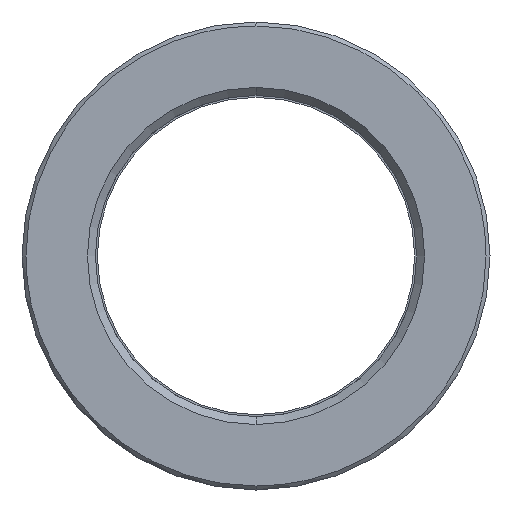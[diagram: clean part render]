
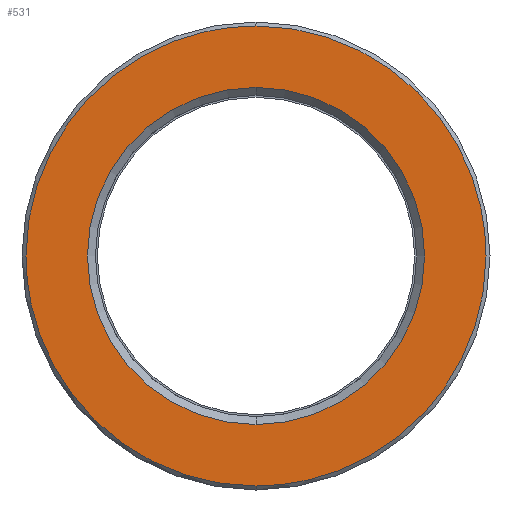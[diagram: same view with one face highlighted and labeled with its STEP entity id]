
A CAD part, left-side view. The second image highlights one B-rep face of the part: STEP entity #531.
In plain terms, the highlighted planar face has unit normal (-1, 0, 0).
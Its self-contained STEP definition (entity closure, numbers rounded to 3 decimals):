
#311=CARTESIAN_POINT('Axis2P3D Location',(0.,0.,0.)) ;
#315=CARTESIAN_POINT('Vertex',(0.,21.25,0.)) ;
#317=CARTESIAN_POINT('Vertex',(0.,0.,21.25)) ;
#320=CARTESIAN_POINT('Axis2P3D Location',(0.,0.,0.)) ;
#324=CARTESIAN_POINT('Vertex',(0.,0.,-21.25)) ;
#351=CARTESIAN_POINT('Axis2P3D Location',(0.,0.,0.)) ;
#355=CARTESIAN_POINT('Vertex',(0.,-21.25,0.)) ;
#358=CARTESIAN_POINT('Axis2P3D Location',(0.,0.,0.)) ;
#438=CARTESIAN_POINT('Axis2P3D Location',(0.,29.,0.)) ;
#444=CARTESIAN_POINT('Control Point',(0.,0.,-29.)) ;
#445=CARTESIAN_POINT('Control Point',(0.,1.442,-29.)) ;
#446=CARTESIAN_POINT('Control Point',(0.,2.884,-28.91)) ;
#447=CARTESIAN_POINT('Control Point',(0.,4.319,-28.731)) ;
#448=CARTESIAN_POINT('Control Point',(0.,8.336,-27.973)) ;
#449=CARTESIAN_POINT('Control Point',(0.,12.177,-26.519)) ;
#450=CARTESIAN_POINT('Control Point',(0.,14.542,-25.299)) ;
#451=CARTESIAN_POINT('Control Point',(0.,18.954,-22.344)) ;
#452=CARTESIAN_POINT('Control Point',(0.,22.589,-18.473)) ;
#453=CARTESIAN_POINT('Control Point',(0.,24.178,-16.338)) ;
#454=CARTESIAN_POINT('Control Point',(0.,26.719,-11.959)) ;
#455=CARTESIAN_POINT('Control Point',(0.,28.26,-7.143)) ;
#456=CARTESIAN_POINT('Control Point',(0.,28.753,-4.784)) ;
#457=CARTESIAN_POINT('Control Point',(0.,29.,-2.392)) ;
#458=CARTESIAN_POINT('Control Point',(0.,29.,0.)) ;
#459=CARTESIAN_POINT('Vertex',(0.,0.,-29.)) ;
#461=CARTESIAN_POINT('Vertex',(0.,29.,0.)) ;
#465=CARTESIAN_POINT('Control Point',(0.,-29.,0.)) ;
#466=CARTESIAN_POINT('Control Point',(0.,-29.,-2.638)) ;
#467=CARTESIAN_POINT('Control Point',(0.,-28.7,-5.276)) ;
#468=CARTESIAN_POINT('Control Point',(0.,-28.1,-7.869)) ;
#469=CARTESIAN_POINT('Control Point',(0.,-26.321,-12.873)) ;
#470=CARTESIAN_POINT('Control Point',(0.,-23.464,-17.349)) ;
#471=CARTESIAN_POINT('Control Point',(0.,-21.786,-19.414)) ;
#472=CARTESIAN_POINT('Control Point',(0.,-17.989,-23.127)) ;
#473=CARTESIAN_POINT('Control Point',(0.,-13.456,-25.893)) ;
#474=CARTESIAN_POINT('Control Point',(0.,-11.041,-27.012)) ;
#475=CARTESIAN_POINT('Control Point',(0.,-7.377,-28.223)) ;
#476=CARTESIAN_POINT('Control Point',(0.,-3.584,-28.815)) ;
#477=CARTESIAN_POINT('Control Point',(0.,-2.392,-28.938)) ;
#478=CARTESIAN_POINT('Control Point',(0.,-1.196,-29.)) ;
#479=CARTESIAN_POINT('Control Point',(0.,0.,-29.)) ;
#480=CARTESIAN_POINT('Vertex',(0.,-29.,0.)) ;
#484=CARTESIAN_POINT('Control Point',(0.,0.,29.)) ;
#485=CARTESIAN_POINT('Control Point',(0.,-1.442,29.)) ;
#486=CARTESIAN_POINT('Control Point',(0.,-2.884,28.91)) ;
#487=CARTESIAN_POINT('Control Point',(0.,-4.319,28.731)) ;
#488=CARTESIAN_POINT('Control Point',(0.,-8.336,27.973)) ;
#489=CARTESIAN_POINT('Control Point',(0.,-12.177,26.519)) ;
#490=CARTESIAN_POINT('Control Point',(0.,-14.542,25.299)) ;
#491=CARTESIAN_POINT('Control Point',(0.,-18.954,22.344)) ;
#492=CARTESIAN_POINT('Control Point',(0.,-22.589,18.473)) ;
#493=CARTESIAN_POINT('Control Point',(0.,-24.178,16.338)) ;
#494=CARTESIAN_POINT('Control Point',(0.,-26.719,11.959)) ;
#495=CARTESIAN_POINT('Control Point',(0.,-28.26,7.143)) ;
#496=CARTESIAN_POINT('Control Point',(0.,-28.753,4.784)) ;
#497=CARTESIAN_POINT('Control Point',(0.,-29.,2.392)) ;
#498=CARTESIAN_POINT('Control Point',(0.,-29.,0.)) ;
#499=CARTESIAN_POINT('Vertex',(0.,0.,29.)) ;
#503=CARTESIAN_POINT('Control Point',(0.,29.,0.)) ;
#504=CARTESIAN_POINT('Control Point',(0.,29.,2.638)) ;
#505=CARTESIAN_POINT('Control Point',(0.,28.7,5.276)) ;
#506=CARTESIAN_POINT('Control Point',(0.,28.1,7.869)) ;
#507=CARTESIAN_POINT('Control Point',(0.,26.321,12.873)) ;
#508=CARTESIAN_POINT('Control Point',(0.,23.464,17.349)) ;
#509=CARTESIAN_POINT('Control Point',(0.,21.786,19.414)) ;
#510=CARTESIAN_POINT('Control Point',(0.,17.989,23.127)) ;
#511=CARTESIAN_POINT('Control Point',(0.,13.456,25.893)) ;
#512=CARTESIAN_POINT('Control Point',(0.,11.041,27.012)) ;
#513=CARTESIAN_POINT('Control Point',(0.,7.377,28.223)) ;
#514=CARTESIAN_POINT('Control Point',(0.,3.584,28.815)) ;
#515=CARTESIAN_POINT('Control Point',(0.,2.392,28.938)) ;
#516=CARTESIAN_POINT('Control Point',(0.,1.196,29.)) ;
#517=CARTESIAN_POINT('Control Point',(0.,0.,29.)) ;
#312=DIRECTION('Axis2P3D Direction',(-1.,0.,0.)) ;
#321=DIRECTION('Axis2P3D Direction',(-1.,0.,0.)) ;
#352=DIRECTION('Axis2P3D Direction',(-1.,0.,0.)) ;
#359=DIRECTION('Axis2P3D Direction',(-1.,0.,0.)) ;
#439=DIRECTION('Axis2P3D Direction',(-1.,0.,0.)) ;
#440=DIRECTION('Axis2P3D XDirection',(0.,0.,1.)) ;
#313=AXIS2_PLACEMENT_3D('Circle Axis2P3D',#311,#312,$) ;
#322=AXIS2_PLACEMENT_3D('Circle Axis2P3D',#320,#321,$) ;
#353=AXIS2_PLACEMENT_3D('Circle Axis2P3D',#351,#352,$) ;
#360=AXIS2_PLACEMENT_3D('Circle Axis2P3D',#358,#359,$) ;
#441=AXIS2_PLACEMENT_3D('Plane Axis2P3D',#438,#439,#440) ;
#520=ORIENTED_EDGE('',*,*,#463,.F.) ;
#521=ORIENTED_EDGE('',*,*,#482,.F.) ;
#522=ORIENTED_EDGE('',*,*,#501,.F.) ;
#523=ORIENTED_EDGE('',*,*,#518,.F.) ;
#526=ORIENTED_EDGE('',*,*,#319,.T.) ;
#527=ORIENTED_EDGE('',*,*,#362,.T.) ;
#528=ORIENTED_EDGE('',*,*,#357,.T.) ;
#529=ORIENTED_EDGE('',*,*,#326,.T.) ;
#530=FACE_BOUND('',#525,.T.) ;
#531=ADVANCED_FACE('553-40X156',(#524,#530),#442,.T.) ;
#443=B_SPLINE_CURVE_WITH_KNOTS('',5,(#444,#445,#446,#447,#448,#449,#450,#451,#452,#453,#454,#455,#456,#457,#458),.UNSPECIFIED.,.F.,.U.,(6,3,3,3,6),(64.421,74.618,93.273,111.928,128.843),.UNSPECIFIED.) ;
#464=B_SPLINE_CURVE_WITH_KNOTS('',5,(#465,#466,#467,#468,#469,#470,#471,#472,#473,#474,#475,#476,#477,#478,#479),.UNSPECIFIED.,.F.,.U.,(6,3,3,3,6),(0.,18.655,37.309,55.964,64.421),.UNSPECIFIED.) ;
#483=B_SPLINE_CURVE_WITH_KNOTS('',5,(#484,#485,#486,#487,#488,#489,#490,#491,#492,#493,#494,#495,#496,#497,#498),.UNSPECIFIED.,.F.,.U.,(6,3,3,3,6),(64.421,74.618,93.273,111.928,128.843),.UNSPECIFIED.) ;
#502=B_SPLINE_CURVE_WITH_KNOTS('',5,(#503,#504,#505,#506,#507,#508,#509,#510,#511,#512,#513,#514,#515,#516,#517),.UNSPECIFIED.,.F.,.U.,(6,3,3,3,6),(0.,18.655,37.309,55.964,64.421),.UNSPECIFIED.) ;
#314=CIRCLE('generated circle',#313,21.25) ;
#323=CIRCLE('generated circle',#322,21.25) ;
#354=CIRCLE('generated circle',#353,21.25) ;
#361=CIRCLE('generated circle',#360,21.25) ;
#319=EDGE_CURVE('',#316,#318,#314,.F.) ;
#326=EDGE_CURVE('',#325,#316,#323,.F.) ;
#357=EDGE_CURVE('',#356,#325,#354,.F.) ;
#362=EDGE_CURVE('',#318,#356,#361,.F.) ;
#463=EDGE_CURVE('',#460,#462,#443,.T.) ;
#482=EDGE_CURVE('',#481,#460,#464,.T.) ;
#501=EDGE_CURVE('',#500,#481,#483,.T.) ;
#518=EDGE_CURVE('',#462,#500,#502,.T.) ;
#519=EDGE_LOOP('',(#520,#521,#522,#523)) ;
#525=EDGE_LOOP('',(#526,#527,#528,#529)) ;
#524=FACE_OUTER_BOUND('',#519,.T.) ;
#442=PLANE('Plane',#441) ;
#316=VERTEX_POINT('',#315) ;
#318=VERTEX_POINT('',#317) ;
#325=VERTEX_POINT('',#324) ;
#356=VERTEX_POINT('',#355) ;
#460=VERTEX_POINT('',#459) ;
#462=VERTEX_POINT('',#461) ;
#481=VERTEX_POINT('',#480) ;
#500=VERTEX_POINT('',#499) ;
